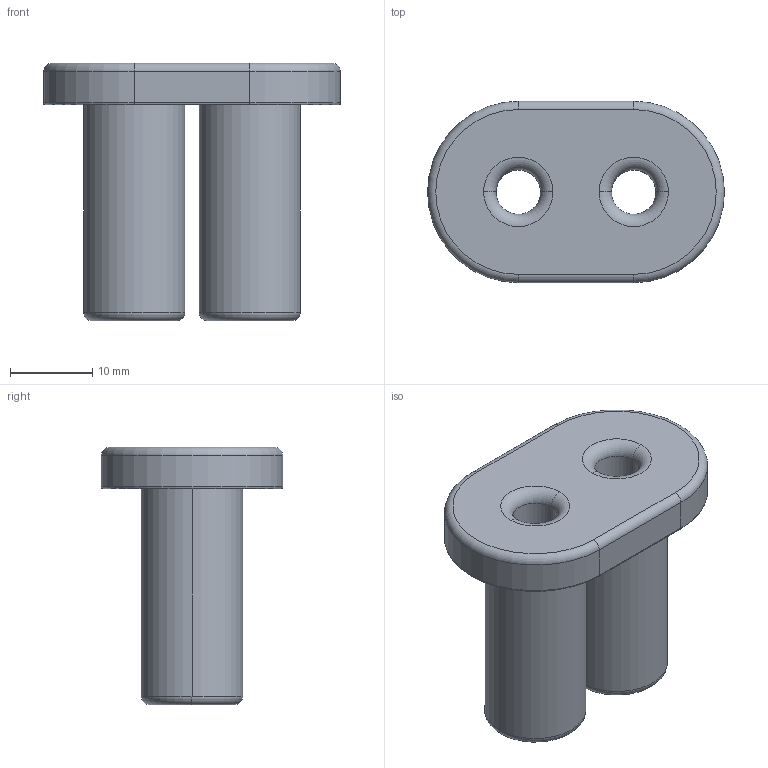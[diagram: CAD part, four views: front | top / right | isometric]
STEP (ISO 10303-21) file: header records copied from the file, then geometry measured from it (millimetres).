
FILE_DESCRIPTION(('CATIA V5 STEP Exchange'),'2;1');
FILE_NAME('D:\姚明阳\装弹簧治具\升降阀装塔簧导向筒.stp','2021-12-15T06:16:54+00:00',('none'),('none'),'CATIA Version 5 Release 21 GA (IN-10)','CATIA V5 STEP AP214','none');
FILE_SCHEMA(('AUTOMOTIVE_DESIGN { 1 0 10303 214 1 1 1 1 }'));
Length unit declared in the file: millimetre
Products named in the file (1): Part2.1
Bounding box: 36 x 22 x 31.2 mm (x, y, z)
Volume: 8182.1 mm3; surface area: 4749.3 mm2
Topology: 1 solids, 1 shells, 32 faces, 68 edges, 40 vertices
Faces by surface type: cylinder 14, torus 12, plane 6
Entity records: 829 total; most frequent: CARTESIAN_POINT 136, ORIENTED_EDGE 136, DIRECTION 122, AXIS2_PLACEMENT_3D 76, EDGE_CURVE 68, CIRCLE 48, VERTEX_POINT 40, EDGE_LOOP 38
